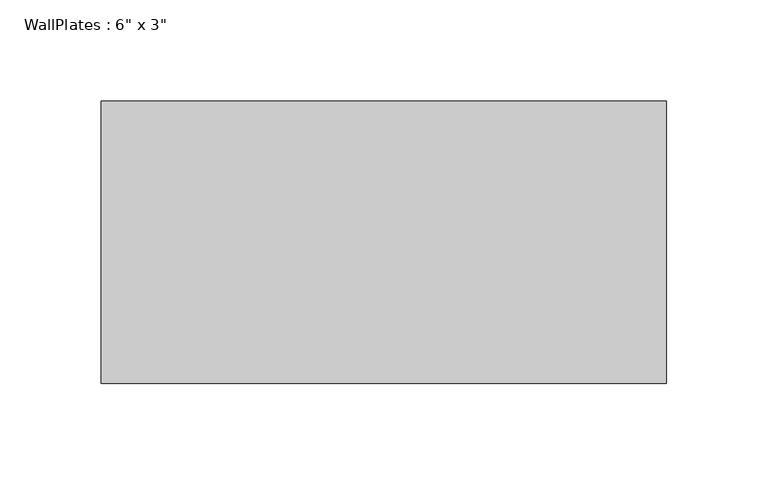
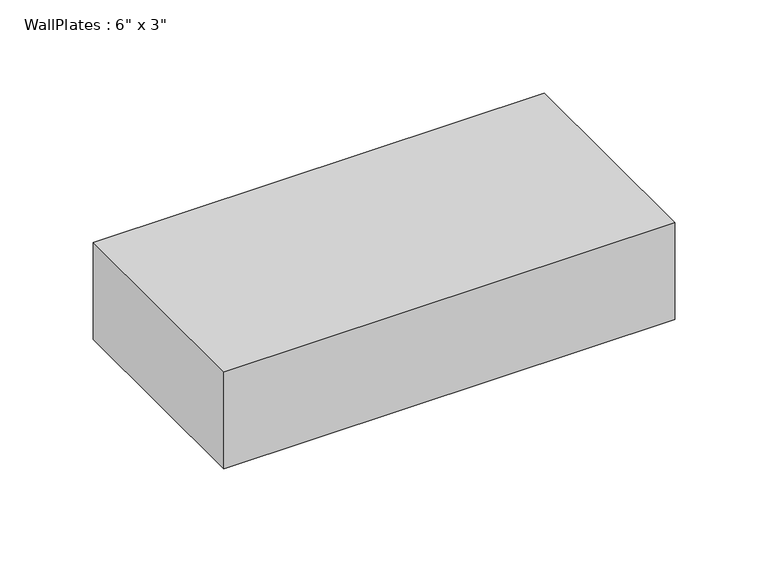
"""IFC4 building model written with IfcOpenShell, lengths in millimetres: beam geometry."""

from ifc_helpers import new_model, si_unit, frame, origin, place, context, project, spatial, polyline, outline, extrude, source, transform, mapped, element, save


def beam_c20683a9(model_context):
    return source(origin(), model_context, "Body", "SweptSolid", [
        extrude(outline(polyline([(-139.705, -69.85), (-139.705, 69.85), (139.705, 69.85), (139.705, -69.85), (-139.705, -69.85)])), frame((0.0, 0.0, -31.75), z_axis=(0.0, 0.0, 1.0), x_axis=(1.0, 0.0, 0.0)), (0.0, 0.0, 1.0), 63.5),
    ])


if __name__ == "__main__":
    model = new_model("IFC4")
    model_context = context("Model", 3, world=origin())
    ifc_project = project(units=[si_unit("LENGTHUNIT", "METRE", prefix="MILLI")], contexts=[model_context])
    site = spatial("IfcSite", under=ifc_project)
    building = spatial("IfcBuilding", under=site)
    placement = place(None, origin())
    beam_shape = beam_c20683a9(model_context)
    element("IfcBeam", 1, ObjectType="WallPlates : 6\" x 3\"", at=placement, inside=building, context=model_context, shape_type="MappedRepresentation", body=[
        mapped(beam_shape, transform((0.0, 0.0, 0.0), x_axis=(1.0, 0.0, 0.0), y_axis=(0.0, 1.0, 0.0), z_axis=(0.0, 0.0, 1.0))),
    ])
    save(model, "model.ifc")
